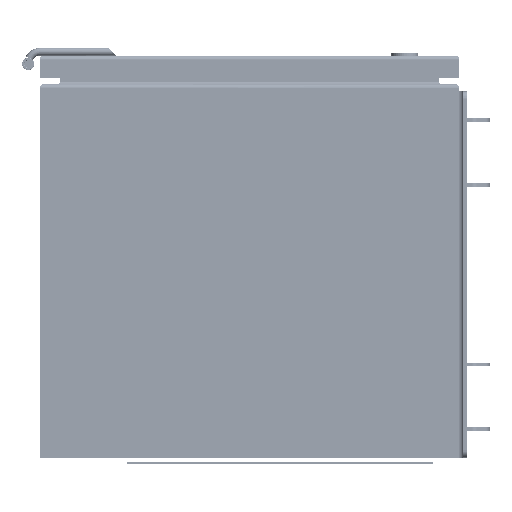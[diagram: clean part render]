
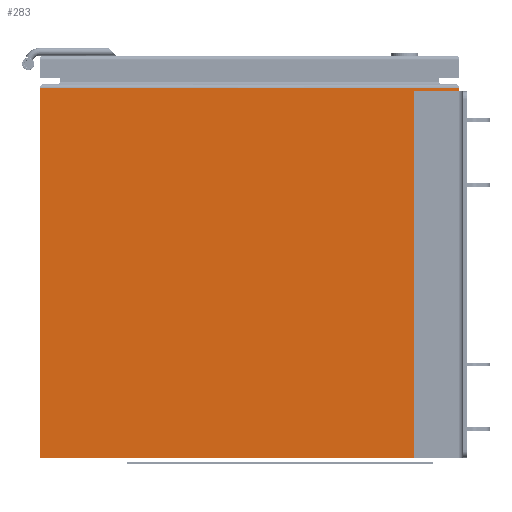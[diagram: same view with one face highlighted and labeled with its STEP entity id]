
A CAD part, left-side view. The second image highlights one B-rep face of the part: STEP entity #283.
In plain terms, the highlighted planar face has unit normal (-1, 0, 0).
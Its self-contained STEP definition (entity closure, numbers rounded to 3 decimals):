
#180=CARTESIAN_POINT('Vertex',(-30.,-30.,-515.)) ;
#187=CARTESIAN_POINT('Vertex',(-30.,-30.,-31.)) ;
#190=CARTESIAN_POINT('Line Origine',(-30.,-30.,-273.)) ;
#211=CARTESIAN_POINT('Vertex',(-30.,520.,-515.)) ;
#214=CARTESIAN_POINT('Line Origine',(-30.,245.,-515.)) ;
#260=CARTESIAN_POINT('Axis2P3D Location',(-30.,550.,-31.)) ;
#265=CARTESIAN_POINT('Line Origine',(-30.,245.,-31.)) ;
#269=CARTESIAN_POINT('Vertex',(-30.,520.,-31.)) ;
#272=CARTESIAN_POINT('Line Origine',(-30.,520.,-273.)) ;
#191=DIRECTION('Vector Direction',(0.,0.,-1.)) ;
#215=DIRECTION('Vector Direction',(0.,-1.,0.)) ;
#261=DIRECTION('Axis2P3D Direction',(-1.,-0.,-0.)) ;
#262=DIRECTION('Axis2P3D XDirection',(0.,0.,-1.)) ;
#266=DIRECTION('Vector Direction',(0.,-1.,0.)) ;
#273=DIRECTION('Vector Direction',(0.,0.,-1.)) ;
#263=AXIS2_PLACEMENT_3D('Plane Axis2P3D',#260,#261,#262) ;
#278=ORIENTED_EDGE('',*,*,#271,.F.) ;
#279=ORIENTED_EDGE('',*,*,#276,.T.) ;
#280=ORIENTED_EDGE('',*,*,#218,.T.) ;
#281=ORIENTED_EDGE('',*,*,#194,.F.) ;
#192=VECTOR('Line Direction',#191,1.) ;
#216=VECTOR('Line Direction',#215,1.) ;
#267=VECTOR('Line Direction',#266,1.) ;
#274=VECTOR('Line Direction',#273,1.) ;
#283=ADVANCED_FACE('PartBody',(#282),#264,.T.) ;
#194=EDGE_CURVE('',#188,#181,#193,.T.) ;
#218=EDGE_CURVE('',#212,#181,#217,.T.) ;
#271=EDGE_CURVE('',#270,#188,#268,.T.) ;
#276=EDGE_CURVE('',#270,#212,#275,.T.) ;
#277=EDGE_LOOP('',(#278,#279,#280,#281)) ;
#282=FACE_OUTER_BOUND('',#277,.T.) ;
#193=LINE('Line',#190,#192) ;
#217=LINE('Line',#214,#216) ;
#268=LINE('Line',#265,#267) ;
#275=LINE('Line',#272,#274) ;
#264=PLANE('',#263) ;
#181=VERTEX_POINT('',#180) ;
#188=VERTEX_POINT('',#187) ;
#212=VERTEX_POINT('',#211) ;
#270=VERTEX_POINT('',#269) ;
